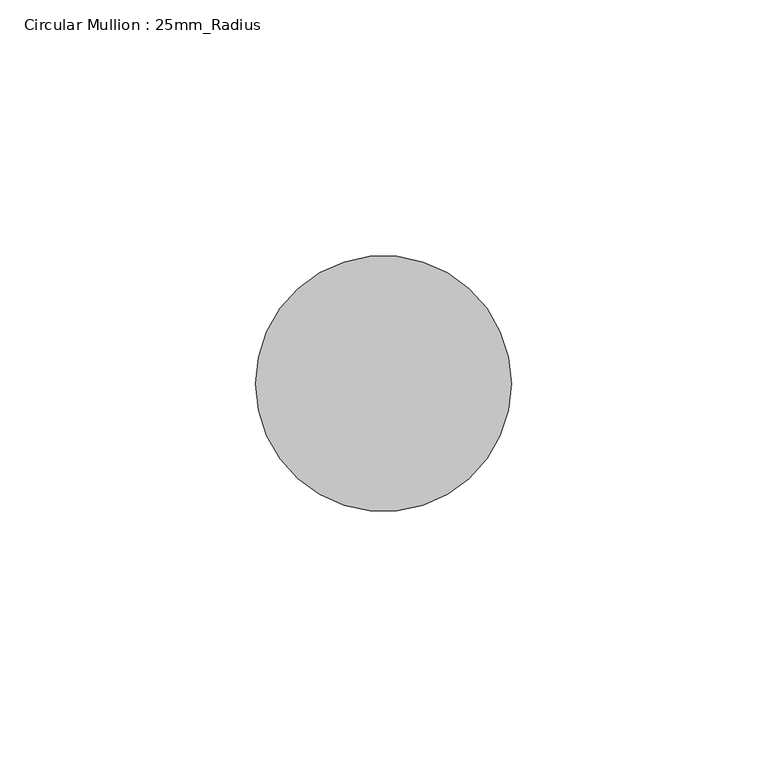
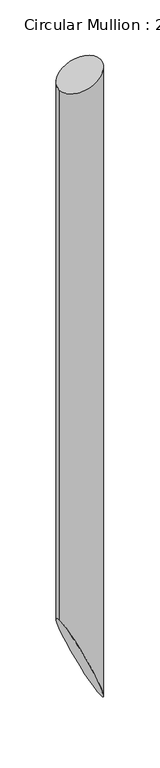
"""IFC4 building model written with IfcOpenShell, lengths in millimetres: member geometry, Circular Mullion : 25mm_Radius."""

from ifc_helpers import new_model, si_unit, frame, origin, place, context, project, spatial, ellipse_curve, source, transform, mapped, element, save
from ifc_brep_helpers import plane_surface, cylinder_surface, advanced_brep


def circular_mullion_25mm_radius_43e5dcd4(model_context):
    return source(origin(), model_context, "Body", "AdvancedBrep", [
        advanced_brep(
        [(-50.0, 0.0, -21.9169527), (0.0, 0.0, 0.0), (0.0, 0.0, -815.9034327), (-50.0, 0.0, -701.8364802)],
        [
            (0, 1, ellipse_curve(frame((-25.0, 0.0, -10.9584763), z_axis=(0.4014637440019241, 0.0, -0.9158749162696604), x_axis=(0.9158749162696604, 0.0, 0.40146374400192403)), 27.2963038, 25.0)),
            (1, 2),
            (2, 3, ellipse_curve(frame((-25.0, 0.0, -758.8699564), z_axis=(0.9158749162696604, 0.0, 0.4014637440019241), x_axis=(-0.4014637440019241, 0.0, 0.9158749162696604)), 62.2721239, 25.0)),
            (3, 0),
            (1, 0, ellipse_curve(frame((-25.0, 0.0, -10.9584763), z_axis=(0.4014637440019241, 0.0, -0.9158749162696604), x_axis=(0.9158749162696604, 0.0, 0.40146374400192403)), 27.2963038, 25.0)),
            (3, 2, ellipse_curve(frame((-25.0, 0.0, -758.8699564), z_axis=(0.9158749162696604, 0.0, 0.4014637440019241), x_axis=(-0.4014637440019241, 0.0, 0.9158749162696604)), 62.2721239, 25.0)),
        ],
        [
            cylinder_surface(frame((-25.0, 0.0, 0.0), z_axis=(0.0, 0.0, 1.0), x_axis=(1.0, 0.0, 0.0)), 25.0),
            plane_surface(frame((0.0, -304.8, 0.0), z_axis=(-0.4014637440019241, 0.0, 0.9158749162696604), x_axis=(-0.9158749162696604, 0.0, -0.4014637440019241))),
            plane_surface(frame((0.0, -304.8, -815.9034327), z_axis=(-0.9158749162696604, 0.0, -0.4014637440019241), x_axis=(-0.4014637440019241, 0.0, 0.9158749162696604))),
        ],
        [
            (0, [[1, 2, 3, 4]]),
            (0, [[5, -4, 6, -2]]),
            (1, [[-1, -5]]),
            (2, [[-6, -3]]),
        ],
    ),
    ])


if __name__ == "__main__":
    model = new_model("IFC4")
    model_context = context("Model", 3, world=origin())
    ifc_project = project(units=[si_unit("LENGTHUNIT", "METRE", prefix="MILLI")], contexts=[model_context])
    site = spatial("IfcSite", under=ifc_project)
    building = spatial("IfcBuilding", under=site)
    placement = place(None, origin())
    circular_mullion_25mm_radius_shape = circular_mullion_25mm_radius_43e5dcd4(model_context)
    element("IfcMember", 1, ObjectType="Circular Mullion : 25mm_Radius", at=placement, inside=building, context=model_context, shape_type="MappedRepresentation", body=[
        mapped(circular_mullion_25mm_radius_shape, transform((0.0, 0.0, 0.0), x_axis=(1.0, 0.0, 0.0), y_axis=(0.0, 1.0, 0.0), z_axis=(0.0, 0.0, 1.0))),
    ])
    save(model, "model.ifc")
